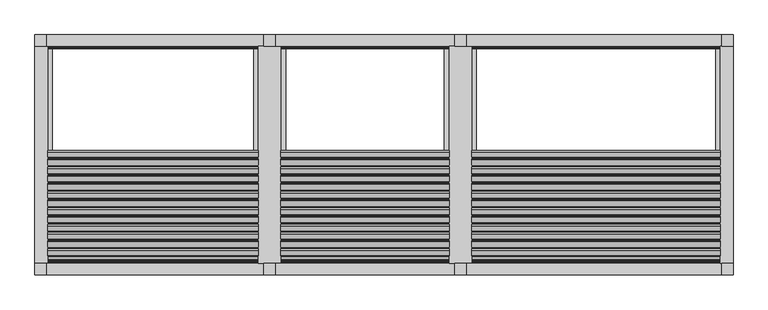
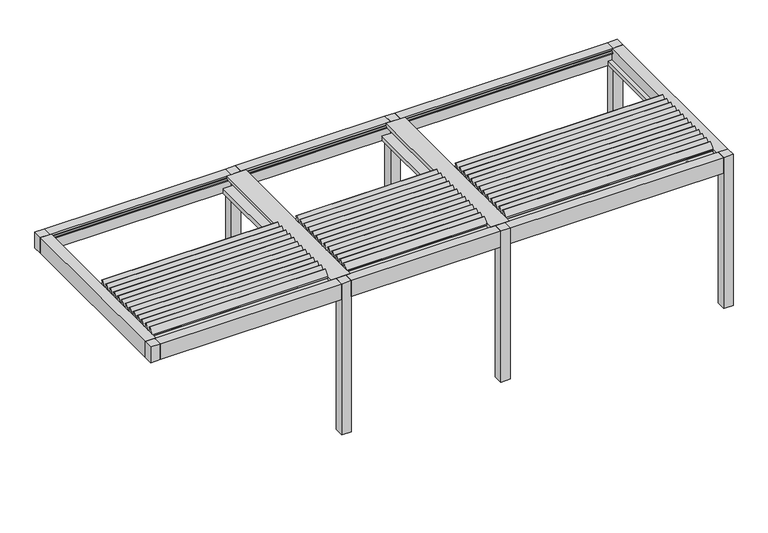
"""IFC4 building model written with IfcOpenShell, lengths in millimetres: proxy geometry, Renson_Camargue_Skye_Facade-Mounted_Patio covers : Renson_Camargue_Skye_Facade-Mounted_Patio covers."""

from ifc_helpers import new_model, si_unit, point, frame, frame_2d, origin, origin_with_axes, place, context, project, spatial, polyline, circle_curve, trimmed, segment, composite_curve, outline, extrude, source, transform, mapped, element, save


def generic_models_b0ae86b7(model_context):
    return source(origin(), model_context, "Body", "SweptSolid", [
        extrude(outline(composite_curve([segment(polyline([(-54.6600113, 2532.0835122), (-201.8058722, 2384.9376513), (-219.8694604, 2406.4649975), (-209.5858898, 2417.7863257), (-195.3799158, 2407.8391957), (-133.3413537, 2469.8777579), (-144.5411294, 2485.8726953)]), True, "CONTINUOUS"), segment(trimmed(circle_curve(frame_2d((-132.2538488, 2494.4763419)), 15.0), [point((-144.5411294, 2485.8726953))], [point((-143.3571207, 2504.561844))], False, "CARTESIAN"), True, "CONTINUOUS"), segment(polyline([(-143.3571207, 2504.561844), (-69.3134421, 2586.077577), (-53.0984906, 2574.7237457), (-72.5087089, 2553.3547618), (-54.6600113, 2532.0835122)]), True, "CONTINUOUS")], self_intersect=False)), frame((-1404.7970473, 0.0, 0.0), z_axis=(1.0, 0.0, 0.0), x_axis=(0.0, 1.0, 0.0)), (0.0, 0.0, 1.0), 2757.0),
        extrude(outline(composite_curve([segment(polyline([(-162.1744176, 2532.0835122), (-309.3202786, 2384.9376513), (-327.3838668, 2406.4649975), (-317.1002962, 2417.7863257), (-302.8943222, 2407.8391957), (-240.85576, 2469.8777579), (-252.0555358, 2485.8726953)]), True, "CONTINUOUS"), segment(trimmed(circle_curve(frame_2d((-239.7682552, 2494.4763419)), 15.0), [point((-252.0555358, 2485.8726953))], [point((-250.8715271, 2504.561844))], False, "CARTESIAN"), True, "CONTINUOUS"), segment(polyline([(-250.8715271, 2504.561844), (-176.8278484, 2586.077577), (-160.6128969, 2574.7237457), (-180.0231153, 2553.3547618), (-162.1744176, 2532.0835122)]), True, "CONTINUOUS")], self_intersect=False)), frame((-1404.7970473, 0.0, 0.0), z_axis=(1.0, 0.0, 0.0), x_axis=(0.0, 1.0, 0.0)), (0.0, 0.0, 1.0), 2757.0),
        extrude(outline(composite_curve([segment(polyline([(-269.688824, 2532.0835122), (-416.8346849, 2384.9376513), (-434.8982731, 2406.4649975), (-424.6147026, 2417.7863257), (-410.4087286, 2407.8391957), (-348.3701664, 2469.8777579), (-359.5699422, 2485.8726953)]), True, "CONTINUOUS"), segment(trimmed(circle_curve(frame_2d((-347.2826615, 2494.4763419)), 15.0), [point((-359.5699422, 2485.8726953))], [point((-358.3859334, 2504.561844))], False, "CARTESIAN"), True, "CONTINUOUS"), segment(polyline([(-358.3859334, 2504.561844), (-284.3422548, 2586.077577), (-268.1273033, 2574.7237457), (-287.5375217, 2553.3547618), (-269.688824, 2532.0835122)]), True, "CONTINUOUS")], self_intersect=False)), frame((-1404.7970473, 0.0, 0.0), z_axis=(1.0, 0.0, 0.0), x_axis=(0.0, 1.0, 0.0)), (0.0, 0.0, 1.0), 2757.0),
        extrude(outline(composite_curve([segment(polyline([(-377.2032304, 2532.0835122), (-524.3490913, 2384.9376513), (-542.4126795, 2406.4649975), (-532.129109, 2417.7863257), (-517.923135, 2407.8391957), (-455.8845728, 2469.8777579), (-467.0843486, 2485.8726953)]), True, "CONTINUOUS"), segment(trimmed(circle_curve(frame_2d((-454.7970679, 2494.4763419)), 15.0), [point((-467.0843486, 2485.8726953))], [point((-465.9003398, 2504.561844))], False, "CARTESIAN"), True, "CONTINUOUS"), segment(polyline([(-465.9003398, 2504.561844), (-391.8566612, 2586.077577), (-375.6417097, 2574.7237457), (-395.051928, 2553.3547618), (-377.2032304, 2532.0835122)]), True, "CONTINUOUS")], self_intersect=False)), frame((-1404.7970473, 0.0, 0.0), z_axis=(1.0, 0.0, 0.0), x_axis=(0.0, 1.0, 0.0)), (0.0, 0.0, 1.0), 2757.0),
        extrude(outline(composite_curve([segment(polyline([(-484.7176368, 2532.0835122), (-631.8634977, 2384.9376513), (-649.9270859, 2406.4649975), (-639.6435153, 2417.7863257), (-625.4375413, 2407.8391957), (-563.3989792, 2469.8777579), (-574.5987549, 2485.8726953)]), True, "CONTINUOUS"), segment(trimmed(circle_curve(frame_2d((-562.3114743, 2494.4763419)), 15.0), [point((-574.5987549, 2485.8726953))], [point((-573.4147462, 2504.561844))], False, "CARTESIAN"), True, "CONTINUOUS"), segment(polyline([(-573.4147462, 2504.561844), (-499.3710676, 2586.077577), (-483.1561161, 2574.7237457), (-502.5663344, 2553.3547618), (-484.7176368, 2532.0835122)]), True, "CONTINUOUS")], self_intersect=False)), frame((-1404.7970473, 0.0, 0.0), z_axis=(1.0, 0.0, 0.0), x_axis=(0.0, 1.0, 0.0)), (0.0, 0.0, 1.0), 2757.0),
        extrude(outline(composite_curve([segment(polyline([(-592.2320431, 2532.0835122), (-739.3779041, 2384.9376513), (-757.4414923, 2406.4649975), (-747.1579217, 2417.7863257), (-732.9519477, 2407.8391957), (-670.9133855, 2469.8777579), (-682.1131613, 2485.8726953)]), True, "CONTINUOUS"), segment(trimmed(circle_curve(frame_2d((-669.8258807, 2494.4763419)), 15.0), [point((-682.1131613, 2485.8726953))], [point((-680.9291526, 2504.561844))], False, "CARTESIAN"), True, "CONTINUOUS"), segment(polyline([(-680.9291526, 2504.561844), (-606.8854739, 2586.077577), (-590.6705224, 2574.7237457), (-610.0807408, 2553.3547618), (-592.2320431, 2532.0835122)]), True, "CONTINUOUS")], self_intersect=False)), frame((-1404.7970473, 0.0, 0.0), z_axis=(1.0, 0.0, 0.0), x_axis=(0.0, 1.0, 0.0)), (0.0, 0.0, 1.0), 2757.0),
        extrude(outline(composite_curve([segment(polyline([(-699.7464495, 2532.0835122), (-846.8923104, 2384.9376513), (-864.9558986, 2406.4649975), (-854.6723281, 2417.7863257), (-840.4663541, 2407.8391957), (-778.4277919, 2469.8777579), (-789.6275677, 2485.8726953)]), True, "CONTINUOUS"), segment(trimmed(circle_curve(frame_2d((-777.340287, 2494.4763419)), 15.0), [point((-789.6275677, 2485.8726953))], [point((-788.4435589, 2504.561844))], False, "CARTESIAN"), True, "CONTINUOUS"), segment(polyline([(-788.4435589, 2504.561844), (-714.3998803, 2586.077577), (-698.1849288, 2574.7237457), (-717.5951472, 2553.3547618), (-699.7464495, 2532.0835122)]), True, "CONTINUOUS")], self_intersect=False)), frame((-1404.7970473, 0.0, 0.0), z_axis=(1.0, 0.0, 0.0), x_axis=(0.0, 1.0, 0.0)), (0.0, 0.0, 1.0), 2757.0),
        extrude(outline(composite_curve([segment(polyline([(-807.2608559, 2532.0835122), (-954.4067168, 2384.9376513), (-972.470305, 2406.4649975), (-962.1867345, 2417.7863257), (-947.9807605, 2407.8391957), (-885.9421983, 2469.8777579), (-897.1419741, 2485.8726953)]), True, "CONTINUOUS"), segment(trimmed(circle_curve(frame_2d((-884.8546934, 2494.4763419)), 15.0), [point((-897.1419741, 2485.8726953))], [point((-895.9579653, 2504.561844))], False, "CARTESIAN"), True, "CONTINUOUS"), segment(polyline([(-895.9579653, 2504.561844), (-821.9142867, 2586.077577), (-805.6993352, 2574.7237457), (-825.1095536, 2553.3547618), (-807.2608559, 2532.0835122)]), True, "CONTINUOUS")], self_intersect=False)), frame((-1404.7970473, 0.0, 0.0), z_axis=(1.0, 0.0, 0.0), x_axis=(0.0, 1.0, 0.0)), (0.0, 0.0, 1.0), 2757.0),
        extrude(outline(composite_curve([segment(polyline([(-914.7752623, 2532.0835122), (-1061.9211232, 2384.9376513), (-1079.9847114, 2406.4649975), (-1069.7011408, 2417.7863257), (-1055.4951668, 2407.8391957), (-993.4566047, 2469.8777579), (-1004.6563804, 2485.8726953)]), True, "CONTINUOUS"), segment(trimmed(circle_curve(frame_2d((-992.3690998, 2494.4763419)), 15.0), [point((-1004.6563804, 2485.8726953))], [point((-1003.4723717, 2504.561844))], False, "CARTESIAN"), True, "CONTINUOUS"), segment(polyline([(-1003.4723717, 2504.561844), (-929.4286931, 2586.077577), (-913.2137416, 2574.7237457), (-932.6239599, 2553.3547618), (-914.7752623, 2532.0835122)]), True, "CONTINUOUS")], self_intersect=False)), frame((-1404.7970473, 0.0, 0.0), z_axis=(1.0, 0.0, 0.0), x_axis=(0.0, 1.0, 0.0)), (0.0, 0.0, 1.0), 2757.0),
        extrude(outline(composite_curve([segment(polyline([(-1022.2896686, 2532.0835122), (-1169.4355296, 2384.9376513), (-1187.4991178, 2406.4649975), (-1177.2155472, 2417.7863257), (-1163.0095732, 2407.8391957), (-1100.971011, 2469.8777579), (-1112.1707868, 2485.8726953)]), True, "CONTINUOUS"), segment(trimmed(circle_curve(frame_2d((-1099.8835062, 2494.4763419)), 15.0), [point((-1112.1707868, 2485.8726953))], [point((-1110.9867781, 2504.561844))], False, "CARTESIAN"), True, "CONTINUOUS"), segment(polyline([(-1110.9867781, 2504.561844), (-1036.9430994, 2586.077577), (-1020.7281479, 2574.7237457), (-1040.1383663, 2553.3547618), (-1022.2896686, 2532.0835122)]), True, "CONTINUOUS")], self_intersect=False)), frame((-1404.7970473, 0.0, 0.0), z_axis=(1.0, 0.0, 0.0), x_axis=(0.0, 1.0, 0.0)), (0.0, 0.0, 1.0), 2757.0),
        extrude(outline(composite_curve([segment(polyline([(-1129.804075, 2532.0835122), (-1276.9499359, 2384.9376513), (-1295.0135242, 2406.4649975), (-1284.7299536, 2417.7863257), (-1270.5239796, 2407.8391957), (-1208.4854174, 2469.8777579), (-1219.6851932, 2485.8726953)]), True, "CONTINUOUS"), segment(trimmed(circle_curve(frame_2d((-1207.3979125, 2494.4763419)), 15.0), [point((-1219.6851932, 2485.8726953))], [point((-1218.5011844, 2504.561844))], False, "CARTESIAN"), True, "CONTINUOUS"), segment(polyline([(-1218.5011844, 2504.561844), (-1144.4575058, 2586.077577), (-1128.2425543, 2574.7237457), (-1147.6527727, 2553.3547618), (-1129.804075, 2532.0835122)]), True, "CONTINUOUS")], self_intersect=False)), frame((-1404.7970473, 0.0, 0.0), z_axis=(1.0, 0.0, 0.0), x_axis=(0.0, 1.0, 0.0)), (0.0, 0.0, 1.0), 2757.0),
        extrude(outline(composite_curve([segment(polyline([(52.8543951, 2532.0835122), (-94.2914658, 2384.9376513), (-112.355054, 2406.4649975), (-102.0714835, 2417.7863257), (-87.8655095, 2407.8391957), (-25.8269473, 2469.8777579), (-37.0267231, 2485.8726953)]), True, "CONTINUOUS"), segment(trimmed(circle_curve(frame_2d((-24.7394424, 2494.4763419)), 15.0), [point((-37.0267231, 2485.8726953))], [point((-35.8427143, 2504.561844))], False, "CARTESIAN"), True, "CONTINUOUS"), segment(polyline([(-35.8427143, 2504.561844), (38.2009643, 2586.077577), (54.4159158, 2574.7237457), (35.0056975, 2553.3547618), (52.8543951, 2532.0835122)]), True, "CONTINUOUS")], self_intersect=False)), frame((-1404.7970473, 0.0, 0.0), z_axis=(1.0, 0.0, 0.0), x_axis=(0.0, 1.0, 0.0)), (0.0, 0.0, 1.0), 2757.0),
        extrude(outline(composite_curve([segment(polyline([(-1237.3184814, 2532.0835122), (-1384.4643423, 2384.9376513), (-1402.5279305, 2406.4649975), (-1392.24436, 2417.7863257), (-1378.038386, 2407.8391957), (-1315.9998238, 2469.8777579), (-1327.1995996, 2485.8726953)]), True, "CONTINUOUS"), segment(trimmed(circle_curve(frame_2d((-1314.9123189, 2494.4763419)), 15.0), [point((-1327.1995996, 2485.8726953))], [point((-1326.0155908, 2504.561844))], False, "CARTESIAN"), True, "CONTINUOUS"), segment(polyline([(-1326.0155908, 2504.561844), (-1251.9719122, 2586.077577), (-1235.7569607, 2574.7237457), (-1255.1671791, 2553.3547618), (-1237.3184814, 2532.0835122)]), True, "CONTINUOUS")], self_intersect=False)), frame((-1404.7970473, 0.0, 0.0), z_axis=(1.0, 0.0, 0.0), x_axis=(0.0, 1.0, 0.0)), (0.0, 0.0, 1.0), 2757.0),
        extrude(outline(composite_curve([segment(polyline([(-54.6600113, 2532.0835122), (-201.8058722, 2384.9376513), (-219.8694604, 2406.4649975), (-209.5858898, 2417.7863257), (-195.3799158, 2407.8391957), (-133.3413537, 2469.8777579), (-144.5411294, 2485.8726953)]), True, "CONTINUOUS"), segment(trimmed(circle_curve(frame_2d((-132.2538488, 2494.4763419)), 15.0), [point((-144.5411294, 2485.8726953))], [point((-143.3571207, 2504.561844))], False, "CARTESIAN"), True, "CONTINUOUS"), segment(polyline([(-143.3571207, 2504.561844), (-69.3134421, 2586.077577), (-53.0984906, 2574.7237457), (-72.5087089, 2553.3547618), (-54.6600113, 2532.0835122)]), True, "CONTINUOUS")], self_intersect=False)), frame((4148.0, 0.0, 0.0), z_axis=(1.0, 0.0, 0.0), x_axis=(0.0, 1.0, 0.0)), (0.0, 0.0, 1.0), 3257.0),
        extrude(outline(composite_curve([segment(polyline([(-162.1744176, 2532.0835122), (-309.3202786, 2384.9376513), (-327.3838668, 2406.4649975), (-317.1002962, 2417.7863257), (-302.8943222, 2407.8391957), (-240.85576, 2469.8777579), (-252.0555358, 2485.8726953)]), True, "CONTINUOUS"), segment(trimmed(circle_curve(frame_2d((-239.7682552, 2494.4763419)), 15.0), [point((-252.0555358, 2485.8726953))], [point((-250.8715271, 2504.561844))], False, "CARTESIAN"), True, "CONTINUOUS"), segment(polyline([(-250.8715271, 2504.561844), (-176.8278484, 2586.077577), (-160.6128969, 2574.7237457), (-180.0231153, 2553.3547618), (-162.1744176, 2532.0835122)]), True, "CONTINUOUS")], self_intersect=False)), frame((4148.0, 0.0, 0.0), z_axis=(1.0, 0.0, 0.0), x_axis=(0.0, 1.0, 0.0)), (0.0, 0.0, 1.0), 3257.0),
        extrude(outline(composite_curve([segment(polyline([(-269.688824, 2532.0835122), (-416.8346849, 2384.9376513), (-434.8982731, 2406.4649975), (-424.6147026, 2417.7863257), (-410.4087286, 2407.8391957), (-348.3701664, 2469.8777579), (-359.5699422, 2485.8726953)]), True, "CONTINUOUS"), segment(trimmed(circle_curve(frame_2d((-347.2826615, 2494.4763419)), 15.0), [point((-359.5699422, 2485.8726953))], [point((-358.3859334, 2504.561844))], False, "CARTESIAN"), True, "CONTINUOUS"), segment(polyline([(-358.3859334, 2504.561844), (-284.3422548, 2586.077577), (-268.1273033, 2574.7237457), (-287.5375217, 2553.3547618), (-269.688824, 2532.0835122)]), True, "CONTINUOUS")], self_intersect=False)), frame((4148.0, 0.0, 0.0), z_axis=(1.0, 0.0, 0.0), x_axis=(0.0, 1.0, 0.0)), (0.0, 0.0, 1.0), 3257.0),
        extrude(outline(composite_curve([segment(polyline([(-377.2032304, 2532.0835122), (-524.3490913, 2384.9376513), (-542.4126795, 2406.4649975), (-532.129109, 2417.7863257), (-517.923135, 2407.8391957), (-455.8845728, 2469.8777579), (-467.0843486, 2485.8726953)]), True, "CONTINUOUS"), segment(trimmed(circle_curve(frame_2d((-454.7970679, 2494.4763419)), 15.0), [point((-467.0843486, 2485.8726953))], [point((-465.9003398, 2504.561844))], False, "CARTESIAN"), True, "CONTINUOUS"), segment(polyline([(-465.9003398, 2504.561844), (-391.8566612, 2586.077577), (-375.6417097, 2574.7237457), (-395.051928, 2553.3547618), (-377.2032304, 2532.0835122)]), True, "CONTINUOUS")], self_intersect=False)), frame((4148.0, 0.0, 0.0), z_axis=(1.0, 0.0, 0.0), x_axis=(0.0, 1.0, 0.0)), (0.0, 0.0, 1.0), 3257.0),
        extrude(outline(composite_curve([segment(polyline([(-484.7176368, 2532.0835122), (-631.8634977, 2384.9376513), (-649.9270859, 2406.4649975), (-639.6435153, 2417.7863257), (-625.4375413, 2407.8391957), (-563.3989792, 2469.8777579), (-574.5987549, 2485.8726953)]), True, "CONTINUOUS"), segment(trimmed(circle_curve(frame_2d((-562.3114743, 2494.4763419)), 15.0), [point((-574.5987549, 2485.8726953))], [point((-573.4147462, 2504.561844))], False, "CARTESIAN"), True, "CONTINUOUS"), segment(polyline([(-573.4147462, 2504.561844), (-499.3710676, 2586.077577), (-483.1561161, 2574.7237457), (-502.5663344, 2553.3547618), (-484.7176368, 2532.0835122)]), True, "CONTINUOUS")], self_intersect=False)), frame((4148.0, 0.0, 0.0), z_axis=(1.0, 0.0, 0.0), x_axis=(0.0, 1.0, 0.0)), (0.0, 0.0, 1.0), 3257.0),
        extrude(outline(composite_curve([segment(polyline([(-592.2320431, 2532.0835122), (-739.3779041, 2384.9376513), (-757.4414923, 2406.4649975), (-747.1579217, 2417.7863257), (-732.9519477, 2407.8391957), (-670.9133855, 2469.8777579), (-682.1131613, 2485.8726953)]), True, "CONTINUOUS"), segment(trimmed(circle_curve(frame_2d((-669.8258807, 2494.4763419)), 15.0), [point((-682.1131613, 2485.8726953))], [point((-680.9291526, 2504.561844))], False, "CARTESIAN"), True, "CONTINUOUS"), segment(polyline([(-680.9291526, 2504.561844), (-606.8854739, 2586.077577), (-590.6705224, 2574.7237457), (-610.0807408, 2553.3547618), (-592.2320431, 2532.0835122)]), True, "CONTINUOUS")], self_intersect=False)), frame((4148.0, 0.0, 0.0), z_axis=(1.0, 0.0, 0.0), x_axis=(0.0, 1.0, 0.0)), (0.0, 0.0, 1.0), 3257.0),
        extrude(outline(composite_curve([segment(polyline([(-699.7464495, 2532.0835122), (-846.8923104, 2384.9376513), (-864.9558986, 2406.4649975), (-854.6723281, 2417.7863257), (-840.4663541, 2407.8391957), (-778.4277919, 2469.8777579), (-789.6275677, 2485.8726953)]), True, "CONTINUOUS"), segment(trimmed(circle_curve(frame_2d((-777.340287, 2494.4763419)), 15.0), [point((-789.6275677, 2485.8726953))], [point((-788.4435589, 2504.561844))], False, "CARTESIAN"), True, "CONTINUOUS"), segment(polyline([(-788.4435589, 2504.561844), (-714.3998803, 2586.077577), (-698.1849288, 2574.7237457), (-717.5951472, 2553.3547618), (-699.7464495, 2532.0835122)]), True, "CONTINUOUS")], self_intersect=False)), frame((4148.0, 0.0, 0.0), z_axis=(1.0, 0.0, 0.0), x_axis=(0.0, 1.0, 0.0)), (0.0, 0.0, 1.0), 3257.0),
        extrude(outline(composite_curve([segment(polyline([(-807.2608559, 2532.0835122), (-954.4067168, 2384.9376513), (-972.470305, 2406.4649975), (-962.1867345, 2417.7863257), (-947.9807605, 2407.8391957), (-885.9421983, 2469.8777579), (-897.1419741, 2485.8726953)]), True, "CONTINUOUS"), segment(trimmed(circle_curve(frame_2d((-884.8546934, 2494.4763419)), 15.0), [point((-897.1419741, 2485.8726953))], [point((-895.9579653, 2504.561844))], False, "CARTESIAN"), True, "CONTINUOUS"), segment(polyline([(-895.9579653, 2504.561844), (-821.9142867, 2586.077577), (-805.6993352, 2574.7237457), (-825.1095536, 2553.3547618), (-807.2608559, 2532.0835122)]), True, "CONTINUOUS")], self_intersect=False)), frame((4148.0, 0.0, 0.0), z_axis=(1.0, 0.0, 0.0), x_axis=(0.0, 1.0, 0.0)), (0.0, 0.0, 1.0), 3257.0),
        extrude(outline(composite_curve([segment(polyline([(-914.7752623, 2532.0835122), (-1061.9211232, 2384.9376513), (-1079.9847114, 2406.4649975), (-1069.7011408, 2417.7863257), (-1055.4951668, 2407.8391957), (-993.4566047, 2469.8777579), (-1004.6563804, 2485.8726953)]), True, "CONTINUOUS"), segment(trimmed(circle_curve(frame_2d((-992.3690998, 2494.4763419)), 15.0), [point((-1004.6563804, 2485.8726953))], [point((-1003.4723717, 2504.561844))], False, "CARTESIAN"), True, "CONTINUOUS"), segment(polyline([(-1003.4723717, 2504.561844), (-929.4286931, 2586.077577), (-913.2137416, 2574.7237457), (-932.6239599, 2553.3547618), (-914.7752623, 2532.0835122)]), True, "CONTINUOUS")], self_intersect=False)), frame((4148.0, 0.0, 0.0), z_axis=(1.0, 0.0, 0.0), x_axis=(0.0, 1.0, 0.0)), (0.0, 0.0, 1.0), 3257.0),
        extrude(outline(composite_curve([segment(polyline([(-1022.2896686, 2532.0835122), (-1169.4355296, 2384.9376513), (-1187.4991178, 2406.4649975), (-1177.2155472, 2417.7863257), (-1163.0095732, 2407.8391957), (-1100.971011, 2469.8777579), (-1112.1707868, 2485.8726953)]), True, "CONTINUOUS"), segment(trimmed(circle_curve(frame_2d((-1099.8835062, 2494.4763419)), 15.0), [point((-1112.1707868, 2485.8726953))], [point((-1110.9867781, 2504.561844))], False, "CARTESIAN"), True, "CONTINUOUS"), segment(polyline([(-1110.9867781, 2504.561844), (-1036.9430994, 2586.077577), (-1020.7281479, 2574.7237457), (-1040.1383663, 2553.3547618), (-1022.2896686, 2532.0835122)]), True, "CONTINUOUS")], self_intersect=False)), frame((4148.0, 0.0, 0.0), z_axis=(1.0, 0.0, 0.0), x_axis=(0.0, 1.0, 0.0)), (0.0, 0.0, 1.0), 3257.0),
        extrude(outline(composite_curve([segment(polyline([(-1129.804075, 2532.0835122), (-1276.9499359, 2384.9376513), (-1295.0135242, 2406.4649975), (-1284.7299536, 2417.7863257), (-1270.5239796, 2407.8391957), (-1208.4854174, 2469.8777579), (-1219.6851932, 2485.8726953)]), True, "CONTINUOUS"), segment(trimmed(circle_curve(frame_2d((-1207.3979125, 2494.4763419)), 15.0), [point((-1219.6851932, 2485.8726953))], [point((-1218.5011844, 2504.561844))], False, "CARTESIAN"), True, "CONTINUOUS"), segment(polyline([(-1218.5011844, 2504.561844), (-1144.4575058, 2586.077577), (-1128.2425543, 2574.7237457), (-1147.6527727, 2553.3547618), (-1129.804075, 2532.0835122)]), True, "CONTINUOUS")], self_intersect=False)), frame((4148.0, 0.0, 0.0), z_axis=(1.0, 0.0, 0.0), x_axis=(0.0, 1.0, 0.0)), (0.0, 0.0, 1.0), 3257.0),
        extrude(outline(composite_curve([segment(polyline([(52.8543951, 2532.0835122), (-94.2914658, 2384.9376513), (-112.355054, 2406.4649975), (-102.0714835, 2417.7863257), (-87.8655095, 2407.8391957), (-25.8269473, 2469.8777579), (-37.0267231, 2485.8726953)]), True, "CONTINUOUS"), segment(trimmed(circle_curve(frame_2d((-24.7394424, 2494.4763419)), 15.0), [point((-37.0267231, 2485.8726953))], [point((-35.8427143, 2504.561844))], False, "CARTESIAN"), True, "CONTINUOUS"), segment(polyline([(-35.8427143, 2504.561844), (38.2009643, 2586.077577), (54.4159158, 2574.7237457), (35.0056975, 2553.3547618), (52.8543951, 2532.0835122)]), True, "CONTINUOUS")], self_intersect=False)), frame((4148.0, 0.0, 0.0), z_axis=(1.0, 0.0, 0.0), x_axis=(0.0, 1.0, 0.0)), (0.0, 0.0, 1.0), 3257.0),
        extrude(outline(composite_curve([segment(polyline([(-1237.3184814, 2532.0835122), (-1384.4643423, 2384.9376513), (-1402.5279305, 2406.4649975), (-1392.24436, 2417.7863257), (-1378.038386, 2407.8391957), (-1315.9998238, 2469.8777579), (-1327.1995996, 2485.8726953)]), True, "CONTINUOUS"), segment(trimmed(circle_curve(frame_2d((-1314.9123189, 2494.4763419)), 15.0), [point((-1327.1995996, 2485.8726953))], [point((-1326.0155908, 2504.561844))], False, "CARTESIAN"), True, "CONTINUOUS"), segment(polyline([(-1326.0155908, 2504.561844), (-1251.9719122, 2586.077577), (-1235.7569607, 2574.7237457), (-1255.1671791, 2553.3547618), (-1237.3184814, 2532.0835122)]), True, "CONTINUOUS")], self_intersect=False)), frame((4148.0, 0.0, 0.0), z_axis=(1.0, 0.0, 0.0), x_axis=(0.0, 1.0, 0.0)), (0.0, 0.0, 1.0), 3257.0),
        extrude(outline(composite_curve([segment(polyline([(-54.6600113, 2532.0835122), (-201.8058722, 2384.9376513), (-219.8694604, 2406.4649975), (-209.5858898, 2417.7863257), (-195.3799158, 2407.8391957), (-133.3413537, 2469.8777579), (-144.5411294, 2485.8726953)]), True, "CONTINUOUS"), segment(trimmed(circle_curve(frame_2d((-132.2538488, 2494.4763419)), 15.0), [point((-144.5411294, 2485.8726953))], [point((-143.3571207, 2504.561844))], False, "CARTESIAN"), True, "CONTINUOUS"), segment(polyline([(-143.3571207, 2504.561844), (-69.3134421, 2586.077577), (-53.0984906, 2574.7237457), (-72.5087089, 2553.3547618), (-54.6600113, 2532.0835122)]), True, "CONTINUOUS")], self_intersect=False)), frame((1648.0, 0.0, 0.0), z_axis=(1.0, 0.0, 0.0), x_axis=(0.0, 1.0, 0.0)), (0.0, 0.0, 1.0), 2205.0),
        extrude(outline(composite_curve([segment(polyline([(-162.1744176, 2532.0835122), (-309.3202786, 2384.9376513), (-327.3838668, 2406.4649975), (-317.1002962, 2417.7863257), (-302.8943222, 2407.8391957), (-240.85576, 2469.8777579), (-252.0555358, 2485.8726953)]), True, "CONTINUOUS"), segment(trimmed(circle_curve(frame_2d((-239.7682552, 2494.4763419)), 15.0), [point((-252.0555358, 2485.8726953))], [point((-250.8715271, 2504.561844))], False, "CARTESIAN"), True, "CONTINUOUS"), segment(polyline([(-250.8715271, 2504.561844), (-176.8278484, 2586.077577), (-160.6128969, 2574.7237457), (-180.0231153, 2553.3547618), (-162.1744176, 2532.0835122)]), True, "CONTINUOUS")], self_intersect=False)), frame((1648.0, 0.0, 0.0), z_axis=(1.0, 0.0, 0.0), x_axis=(0.0, 1.0, 0.0)), (0.0, 0.0, 1.0), 2205.0),
        extrude(outline(composite_curve([segment(polyline([(-269.688824, 2532.0835122), (-416.8346849, 2384.9376513), (-434.8982731, 2406.4649975), (-424.6147026, 2417.7863257), (-410.4087286, 2407.8391957), (-348.3701664, 2469.8777579), (-359.5699422, 2485.8726953)]), True, "CONTINUOUS"), segment(trimmed(circle_curve(frame_2d((-347.2826615, 2494.4763419)), 15.0), [point((-359.5699422, 2485.8726953))], [point((-358.3859334, 2504.561844))], False, "CARTESIAN"), True, "CONTINUOUS"), segment(polyline([(-358.3859334, 2504.561844), (-284.3422548, 2586.077577), (-268.1273033, 2574.7237457), (-287.5375217, 2553.3547618), (-269.688824, 2532.0835122)]), True, "CONTINUOUS")], self_intersect=False)), frame((1648.0, 0.0, 0.0), z_axis=(1.0, 0.0, 0.0), x_axis=(0.0, 1.0, 0.0)), (0.0, 0.0, 1.0), 2205.0),
        extrude(outline(composite_curve([segment(polyline([(-377.2032304, 2532.0835122), (-524.3490913, 2384.9376513), (-542.4126795, 2406.4649975), (-532.129109, 2417.7863257), (-517.923135, 2407.8391957), (-455.8845728, 2469.8777579), (-467.0843486, 2485.8726953)]), True, "CONTINUOUS"), segment(trimmed(circle_curve(frame_2d((-454.7970679, 2494.4763419)), 15.0), [point((-467.0843486, 2485.8726953))], [point((-465.9003398, 2504.561844))], False, "CARTESIAN"), True, "CONTINUOUS"), segment(polyline([(-465.9003398, 2504.561844), (-391.8566612, 2586.077577), (-375.6417097, 2574.7237457), (-395.051928, 2553.3547618), (-377.2032304, 2532.0835122)]), True, "CONTINUOUS")], self_intersect=False)), frame((1648.0, 0.0, 0.0), z_axis=(1.0, 0.0, 0.0), x_axis=(0.0, 1.0, 0.0)), (0.0, 0.0, 1.0), 2205.0),
        extrude(outline(composite_curve([segment(polyline([(-484.7176368, 2532.0835122), (-631.8634977, 2384.9376513), (-649.9270859, 2406.4649975), (-639.6435153, 2417.7863257), (-625.4375413, 2407.8391957), (-563.3989792, 2469.8777579), (-574.5987549, 2485.8726953)]), True, "CONTINUOUS"), segment(trimmed(circle_curve(frame_2d((-562.3114743, 2494.4763419)), 15.0), [point((-574.5987549, 2485.8726953))], [point((-573.4147462, 2504.561844))], False, "CARTESIAN"), True, "CONTINUOUS"), segment(polyline([(-573.4147462, 2504.561844), (-499.3710676, 2586.077577), (-483.1561161, 2574.7237457), (-502.5663344, 2553.3547618), (-484.7176368, 2532.0835122)]), True, "CONTINUOUS")], self_intersect=False)), frame((1648.0, 0.0, 0.0), z_axis=(1.0, 0.0, 0.0), x_axis=(0.0, 1.0, 0.0)), (0.0, 0.0, 1.0), 2205.0),
        extrude(outline(composite_curve([segment(polyline([(-592.2320431, 2532.0835122), (-739.3779041, 2384.9376513), (-757.4414923, 2406.4649975), (-747.1579217, 2417.7863257), (-732.9519477, 2407.8391957), (-670.9133855, 2469.8777579), (-682.1131613, 2485.8726953)]), True, "CONTINUOUS"), segment(trimmed(circle_curve(frame_2d((-669.8258807, 2494.4763419)), 15.0), [point((-682.1131613, 2485.8726953))], [point((-680.9291526, 2504.561844))], False, "CARTESIAN"), True, "CONTINUOUS"), segment(polyline([(-680.9291526, 2504.561844), (-606.8854739, 2586.077577), (-590.6705224, 2574.7237457), (-610.0807408, 2553.3547618), (-592.2320431, 2532.0835122)]), True, "CONTINUOUS")], self_intersect=False)), frame((1648.0, 0.0, 0.0), z_axis=(1.0, 0.0, 0.0), x_axis=(0.0, 1.0, 0.0)), (0.0, 0.0, 1.0), 2205.0),
        extrude(outline(composite_curve([segment(polyline([(-699.7464495, 2532.0835122), (-846.8923104, 2384.9376513), (-864.9558986, 2406.4649975), (-854.6723281, 2417.7863257), (-840.4663541, 2407.8391957), (-778.4277919, 2469.8777579), (-789.6275677, 2485.8726953)]), True, "CONTINUOUS"), segment(trimmed(circle_curve(frame_2d((-777.340287, 2494.4763419)), 15.0), [point((-789.6275677, 2485.8726953))], [point((-788.4435589, 2504.561844))], False, "CARTESIAN"), True, "CONTINUOUS"), segment(polyline([(-788.4435589, 2504.561844), (-714.3998803, 2586.077577), (-698.1849288, 2574.7237457), (-717.5951472, 2553.3547618), (-699.7464495, 2532.0835122)]), True, "CONTINUOUS")], self_intersect=False)), frame((1648.0, 0.0, 0.0), z_axis=(1.0, 0.0, 0.0), x_axis=(0.0, 1.0, 0.0)), (0.0, 0.0, 1.0), 2205.0),
        extrude(outline(composite_curve([segment(polyline([(-807.2608559, 2532.0835122), (-954.4067168, 2384.9376513), (-972.470305, 2406.4649975), (-962.1867345, 2417.7863257), (-947.9807605, 2407.8391957), (-885.9421983, 2469.8777579), (-897.1419741, 2485.8726953)]), True, "CONTINUOUS"), segment(trimmed(circle_curve(frame_2d((-884.8546934, 2494.4763419)), 15.0), [point((-897.1419741, 2485.8726953))], [point((-895.9579653, 2504.561844))], False, "CARTESIAN"), True, "CONTINUOUS"), segment(polyline([(-895.9579653, 2504.561844), (-821.9142867, 2586.077577), (-805.6993352, 2574.7237457), (-825.1095536, 2553.3547618), (-807.2608559, 2532.0835122)]), True, "CONTINUOUS")], self_intersect=False)), frame((1648.0, 0.0, 0.0), z_axis=(1.0, 0.0, 0.0), x_axis=(0.0, 1.0, 0.0)), (0.0, 0.0, 1.0), 2205.0),
        extrude(outline(composite_curve([segment(polyline([(-914.7752623, 2532.0835122), (-1061.9211232, 2384.9376513), (-1079.9847114, 2406.4649975), (-1069.7011408, 2417.7863257), (-1055.4951668, 2407.8391957), (-993.4566047, 2469.8777579), (-1004.6563804, 2485.8726953)]), True, "CONTINUOUS"), segment(trimmed(circle_curve(frame_2d((-992.3690998, 2494.4763419)), 15.0), [point((-1004.6563804, 2485.8726953))], [point((-1003.4723717, 2504.561844))], False, "CARTESIAN"), True, "CONTINUOUS"), segment(polyline([(-1003.4723717, 2504.561844), (-929.4286931, 2586.077577), (-913.2137416, 2574.7237457), (-932.6239599, 2553.3547618), (-914.7752623, 2532.0835122)]), True, "CONTINUOUS")], self_intersect=False)), frame((1648.0, 0.0, 0.0), z_axis=(1.0, 0.0, 0.0), x_axis=(0.0, 1.0, 0.0)), (0.0, 0.0, 1.0), 2205.0),
        extrude(outline(composite_curve([segment(polyline([(-1022.2896686, 2532.0835122), (-1169.4355296, 2384.9376513), (-1187.4991178, 2406.4649975), (-1177.2155472, 2417.7863257), (-1163.0095732, 2407.8391957), (-1100.971011, 2469.8777579), (-1112.1707868, 2485.8726953)]), True, "CONTINUOUS"), segment(trimmed(circle_curve(frame_2d((-1099.8835062, 2494.4763419)), 15.0), [point((-1112.1707868, 2485.8726953))], [point((-1110.9867781, 2504.561844))], False, "CARTESIAN"), True, "CONTINUOUS"), segment(polyline([(-1110.9867781, 2504.561844), (-1036.9430994, 2586.077577), (-1020.7281479, 2574.7237457), (-1040.1383663, 2553.3547618), (-1022.2896686, 2532.0835122)]), True, "CONTINUOUS")], self_intersect=False)), frame((1648.0, 0.0, 0.0), z_axis=(1.0, 0.0, 0.0), x_axis=(0.0, 1.0, 0.0)), (0.0, 0.0, 1.0), 2205.0),
        extrude(outline(composite_curve([segment(polyline([(-1129.804075, 2532.0835122), (-1276.9499359, 2384.9376513), (-1295.0135242, 2406.4649975), (-1284.7299536, 2417.7863257), (-1270.5239796, 2407.8391957), (-1208.4854174, 2469.8777579), (-1219.6851932, 2485.8726953)]), True, "CONTINUOUS"), segment(trimmed(circle_curve(frame_2d((-1207.3979125, 2494.4763419)), 15.0), [point((-1219.6851932, 2485.8726953))], [point((-1218.5011844, 2504.561844))], False, "CARTESIAN"), True, "CONTINUOUS"), segment(polyline([(-1218.5011844, 2504.561844), (-1144.4575058, 2586.077577), (-1128.2425543, 2574.7237457), (-1147.6527727, 2553.3547618), (-1129.804075, 2532.0835122)]), True, "CONTINUOUS")], self_intersect=False)), frame((1648.0, 0.0, 0.0), z_axis=(1.0, 0.0, 0.0), x_axis=(0.0, 1.0, 0.0)), (0.0, 0.0, 1.0), 2205.0),
        extrude(outline(composite_curve([segment(polyline([(52.8543951, 2532.0835122), (-94.2914658, 2384.9376513), (-112.355054, 2406.4649975), (-102.0714835, 2417.7863257), (-87.8655095, 2407.8391957), (-25.8269473, 2469.8777579), (-37.0267231, 2485.8726953)]), True, "CONTINUOUS"), segment(trimmed(circle_curve(frame_2d((-24.7394424, 2494.4763419)), 15.0), [point((-37.0267231, 2485.8726953))], [point((-35.8427143, 2504.561844))], False, "CARTESIAN"), True, "CONTINUOUS"), segment(polyline([(-35.8427143, 2504.561844), (38.2009643, 2586.077577), (54.4159158, 2574.7237457), (35.0056975, 2553.3547618), (52.8543951, 2532.0835122)]), True, "CONTINUOUS")], self_intersect=False)), frame((1648.0, 0.0, 0.0), z_axis=(1.0, 0.0, 0.0), x_axis=(0.0, 1.0, 0.0)), (0.0, 0.0, 1.0), 2205.0),
        extrude(outline(composite_curve([segment(polyline([(-1237.3184814, 2532.0835122), (-1384.4643423, 2384.9376513), (-1402.5279305, 2406.4649975), (-1392.24436, 2417.7863257), (-1378.038386, 2407.8391957), (-1315.9998238, 2469.8777579), (-1327.1995996, 2485.8726953)]), True, "CONTINUOUS"), segment(trimmed(circle_curve(frame_2d((-1314.9123189, 2494.4763419)), 15.0), [point((-1327.1995996, 2485.8726953))], [point((-1326.0155908, 2504.561844))], False, "CARTESIAN"), True, "CONTINUOUS"), segment(polyline([(-1326.0155908, 2504.561844), (-1251.9719122, 2586.077577), (-1235.7569607, 2574.7237457), (-1255.1671791, 2553.3547618), (-1237.3184814, 2532.0835122)]), True, "CONTINUOUS")], self_intersect=False)), frame((1648.0, 0.0, 0.0), z_axis=(1.0, 0.0, 0.0), x_axis=(0.0, 1.0, 0.0)), (0.0, 0.0, 1.0), 2205.0),
        extrude(outline(polyline([(-1425.0, -1575.0), (-1575.0, -1575.0), (-1575.0, -1425.0), (-1425.0, -1425.0), (-1425.0, -1575.0)])), frame((0.0, 0.0, 2250.0), z_axis=(0.0, 0.0, 1.0), x_axis=(1.0, 0.0, 0.0)), (0.0, 0.0, 1.0), 260.0),
        extrude(outline(polyline([(7575.0, 1425.0), (7425.0, 1425.0), (7425.0, 1575.0), (7575.0, 1575.0), (7575.0, 1425.0)])), origin_with_axes(), (0.0, 0.0, 1.0), 2510.0),
        extrude(outline(polyline([(4075.0, 1425.0), (3925.0, 1425.0), (3925.0, 1575.0), (4075.0, 1575.0), (4075.0, 1425.0)])), origin_with_axes(), (0.0, 0.0, 1.0), 2510.0),
        extrude(outline(polyline([(1575.0, 1425.0), (1425.0, 1425.0), (1425.0, 1575.0), (1575.0, 1575.0), (1575.0, 1425.0)])), origin_with_axes(), (0.0, 0.0, 1.0), 2510.0),
        extrude(outline(polyline([(7575.0, -1575.0), (7425.0, -1575.0), (7425.0, -1425.0), (7575.0, -1425.0), (7575.0, -1575.0)])), origin_with_axes(), (0.0, 0.0, 1.0), 2510.0),
        extrude(outline(polyline([(4075.0, -1575.0), (3925.0, -1575.0), (3925.0, -1425.0), (4075.0, -1425.0), (4075.0, -1575.0)])), origin_with_axes(), (0.0, 0.0, 1.0), 2510.0),
        extrude(outline(polyline([(1575.0, -1575.0), (1425.0, -1575.0), (1425.0, -1425.0), (1575.0, -1425.0), (1575.0, -1575.0)])), origin_with_axes(), (0.0, 0.0, 1.0), 2510.0),
        extrude(outline(polyline([(2510.0, 7405.0), (2322.0, 7405.0), (2322.0, 7345.0), (2250.0, 7345.0), (2250.0, 7575.0), (2510.0, 7575.0), (2510.0, 7405.0)])), frame((0.0, -1425.0, 0.0), z_axis=(0.0, 1.0, 0.0), x_axis=(0.0, 0.0, 1.0)), (0.0, 0.0, 1.0), 2850.0),
        extrude(outline(polyline([(-1425.0, 2441.6559373), (-1425.0, 2479.6823598), (-1420.0, 2479.2449277), (-1420.0, 2471.400763), (-1404.5940945, 2455.6555802), (-1395.2487113, 2455.6555802), (-1399.0, 2441.6559373), (-1425.0, 2441.6559373)])), frame((4075.0, 0.0, 0.0), z_axis=(1.0, 0.0, 0.0), x_axis=(0.0, 1.0, 0.0)), (0.0, 0.0, 1.0), 3350.0),
        extrude(outline(polyline([(1425.0, 2479.6823598), (1425.0, 2510.0), (1575.0, 2510.0), (1575.0, 2250.0), (1425.0, 2250.0), (1425.0, 2441.6559373), (1398.6603211, 2441.6559373), (1394.9090324, 2455.6555802), (1404.2544156, 2455.6555802), (1420.0, 2471.400763), (1420.0, 2479.2449277), (1425.0, 2479.6823598)])), frame((4075.0, 0.0, 0.0), z_axis=(1.0, 0.0, 0.0), x_axis=(0.0, 1.0, 0.0)), (0.0, 0.0, 1.0), 3350.0),
        extrude(outline(polyline([(7425.0, -1575.0), (4075.0, -1575.0), (4075.0, -1425.0), (7425.0, -1425.0), (7425.0, -1575.0)])), frame((0.0, 0.0, 2250.0), z_axis=(0.0, 0.0, 1.0), x_axis=(1.0, 0.0, 0.0)), (0.0, 0.0, 1.0), 260.0),
        extrude(outline(polyline([(2250.0, 4210.0), (2322.0, 4210.0), (2322.0, 4020.0), (2456.0, 4020.0), (2456.0, 4148.0), (2510.0, 4148.0), (2510.0, 3852.0), (2456.0, 3852.0), (2456.0, 3980.0), (2322.0, 3980.0), (2322.0, 3790.0), (2250.0, 3790.0), (2250.0, 4210.0)])), frame((0.0, -1425.0, 0.0), z_axis=(0.0, 1.0, 0.0), x_axis=(0.0, 0.0, 1.0)), (0.0, 0.0, 1.0), 2850.0),
        extrude(outline(polyline([(7575.0, -1575.0), (7425.0, -1575.0), (7425.0, -1425.0), (7575.0, -1425.0), (7575.0, -1575.0)])), frame((0.0, 0.0, 2250.0), z_axis=(0.0, 0.0, 1.0), x_axis=(1.0, 0.0, 0.0)), (0.0, 0.0, 1.0), 260.0),
        extrude(outline(polyline([(7575.0, 1575.0), (7575.0, 1425.0), (7425.0, 1425.0), (7425.0, 1575.0), (7575.0, 1575.0)])), frame((0.0, 0.0, 2250.0), z_axis=(0.0, 0.0, 1.0), x_axis=(1.0, 0.0, 0.0)), (0.0, 0.0, 1.0), 260.0),
        extrude(outline(polyline([(-1425.0, 2441.6559373), (-1425.0, 2479.6823598), (-1420.0, 2479.2449277), (-1420.0, 2471.400763), (-1404.5940945, 2455.6555802), (-1395.2487113, 2455.6555802), (-1399.0, 2441.6559373), (-1425.0, 2441.6559373)])), frame((1575.0, 0.0, 0.0), z_axis=(1.0, 0.0, 0.0), x_axis=(0.0, 1.0, 0.0)), (0.0, 0.0, 1.0), 2350.0),
        extrude(outline(polyline([(4075.0, 1575.0), (4075.0, 1425.0), (3925.0, 1425.0), (3925.0, 1575.0), (4075.0, 1575.0)])), frame((0.0, 0.0, 2250.0), z_axis=(0.0, 0.0, 1.0), x_axis=(1.0, 0.0, 0.0)), (0.0, 0.0, 1.0), 260.0),
        extrude(outline(polyline([(3925.0, -1575.0), (1575.0, -1575.0), (1575.0, -1425.0), (3925.0, -1425.0), (3925.0, -1575.0)])), frame((0.0, 0.0, 2250.0), z_axis=(0.0, 0.0, 1.0), x_axis=(1.0, 0.0, 0.0)), (0.0, 0.0, 1.0), 260.0),
        extrude(outline(polyline([(1425.0, 2250.0), (1425.0, 2441.6559373), (1398.6603211, 2441.6559373), (1394.9090324, 2455.6555802), (1404.2544156, 2455.6555802), (1420.0, 2471.400763), (1420.0, 2479.2449277), (1425.0, 2479.6823598), (1425.0, 2510.0), (1575.0, 2510.0), (1575.0, 2250.0), (1425.0, 2250.0)])), frame((1575.0, 0.0, 0.0), z_axis=(1.0, 0.0, 0.0), x_axis=(0.0, 1.0, 0.0)), (0.0, 0.0, 1.0), 2350.0),
        extrude(outline(polyline([(2510.0, 1352.0), (2456.0, 1352.0), (2456.0, 1480.0), (2322.0, 1480.0), (2322.0, 1290.0), (2250.0, 1290.0), (2250.0, 1710.0), (2322.0, 1710.0), (2322.0, 1520.0), (2456.0, 1520.0), (2456.0, 1648.0), (2510.0, 1648.0), (2510.0, 1352.0)])), frame((0.0, -1425.0, 0.0), z_axis=(0.0, 1.0, 0.0), x_axis=(0.0, 0.0, 1.0)), (0.0, 0.0, 1.0), 2850.0),
        extrude(outline(polyline([(-1425.0, 2441.6559373), (-1425.0, 2479.6823598), (-1420.0, 2479.2449277), (-1420.0, 2471.400763), (-1404.5940945, 2455.6555802), (-1395.2487113, 2455.6555802), (-1399.0, 2441.6559373), (-1425.0, 2441.6559373)])), frame((-1425.0, 0.0, 0.0), z_axis=(1.0, 0.0, 0.0), x_axis=(0.0, 1.0, 0.0)), (0.0, 0.0, 1.0), 2850.0),
        extrude(outline(polyline([(1575.0, 1425.0), (1425.0, 1425.0), (1425.0, 1575.0), (1575.0, 1575.0), (1575.0, 1425.0)])), frame((0.0, 0.0, 2250.0), z_axis=(0.0, 0.0, 1.0), x_axis=(1.0, 0.0, 0.0)), (0.0, 0.0, 1.0), 260.0),
        extrude(outline(polyline([(-1425.0, 1425.0), (-1575.0, 1425.0), (-1575.0, 1575.0), (-1425.0, 1575.0), (-1425.0, 1425.0)])), frame((0.0, 0.0, 2250.0), z_axis=(0.0, 0.0, 1.0), x_axis=(1.0, 0.0, 0.0)), (0.0, 0.0, 1.0), 260.0),
        extrude(outline(polyline([(1425.0, 2510.0), (1575.0, 2510.0), (1575.0, 2250.0), (1425.0, 2250.0), (1425.0, 2441.6559373), (1398.6603211, 2441.6559373), (1394.9090324, 2455.6555802), (1404.2544156, 2455.6555802), (1420.0, 2471.400763), (1420.0, 2479.2449277), (1425.0, 2479.6823598), (1425.0, 2510.0)])), frame((-1425.0, 0.0, 0.0), z_axis=(1.0, 0.0, 0.0), x_axis=(0.0, 1.0, 0.0)), (0.0, 0.0, 1.0), 2850.0),
        extrude(outline(polyline([(1425.0, -1575.0), (-1425.0, -1575.0), (-1425.0, -1425.0), (1425.0, -1425.0), (1425.0, -1575.0)])), frame((0.0, 0.0, 2250.0), z_axis=(0.0, 0.0, 1.0), x_axis=(1.0, 0.0, 0.0)), (0.0, 0.0, 1.0), 260.0),
        extrude(outline(polyline([(2510.0, -1405.0), (2510.0, -1575.0), (2250.0, -1575.0), (2250.0, -1345.0), (2322.0, -1345.0), (2322.0, -1405.0), (2510.0, -1405.0)])), frame((0.0, -1425.0, 0.0), z_axis=(0.0, 1.0, 0.0), x_axis=(0.0, 0.0, 1.0)), (0.0, 0.0, 1.0), 2850.0),
    ])


if __name__ == "__main__":
    model = new_model("IFC4")
    model_context = context("Model", 3, world=origin())
    ifc_project = project(units=[si_unit("LENGTHUNIT", "METRE", prefix="MILLI")], contexts=[model_context])
    site = spatial("IfcSite", under=ifc_project)
    building = spatial("IfcBuilding", under=site)
    placement = place(None, origin())
    generic_models_shape = generic_models_b0ae86b7(model_context)
    element("IfcBuildingElementProxy", 1, Name="Renson_Camargue_Skye_Facade-Mounted_Patio covers : Renson_Camargue_Skye_Facade-Mounted_Patio covers", ObjectType="Renson_Camargue_Skye_Facade-Mounted_Patio covers : Renson_Camargue_Skye_Facade-Mounted_Patio covers", at=placement, inside=building, context=model_context, shape_type="MappedRepresentation", body=[
        mapped(generic_models_shape, transform((0.0, 0.0, 0.0), x_axis=(1.0, 0.0, 0.0), y_axis=(0.0, 1.0, 0.0), z_axis=(0.0, 0.0, 1.0))),
    ])
    save(model, "model.ifc")
